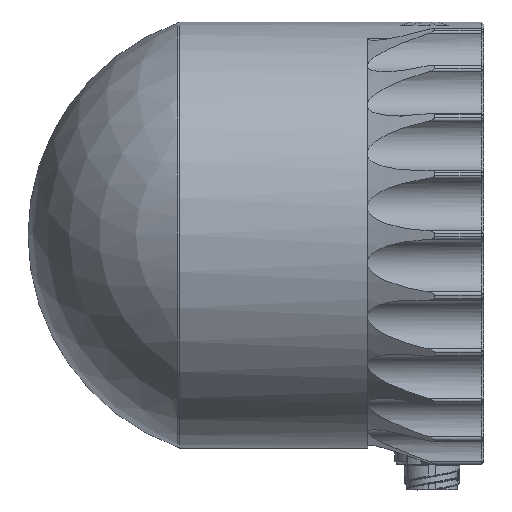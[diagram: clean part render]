
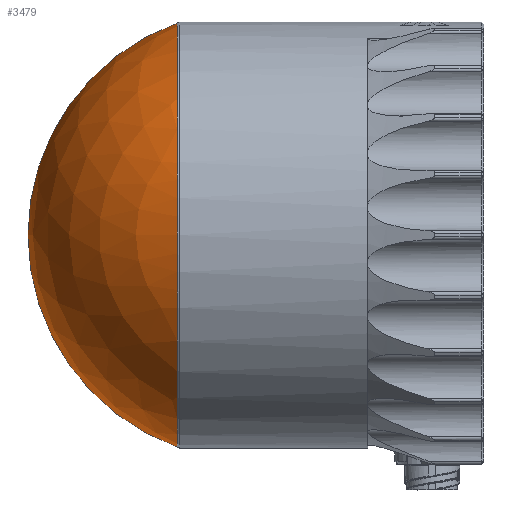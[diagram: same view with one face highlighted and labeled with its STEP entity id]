
A CAD part, left-side view. The second image highlights one B-rep face of the part: STEP entity #3479.
In plain terms, the highlighted spherical face has radius 41.2 mm.
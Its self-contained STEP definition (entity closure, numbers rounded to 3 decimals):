
#1589 = AXIS2_PLACEMENT_3D ( 'NONE', #22937, #10468, #59908 ) ;
#3479 = ADVANCED_FACE ( 'NONE', ( #34811 ), #36775, .T. ) ;
#3748 = VERTEX_POINT ( 'NONE', #27011 ) ;
#4002 = CIRCLE ( 'NONE', #27110, 41.2 ) ;
#8672 = DIRECTION ( 'NONE',  ( 0., -1., 0. ) ) ;
#10468 = DIRECTION ( 'NONE',  ( -1., 0., 0. ) ) ;
#11356 = CARTESIAN_POINT ( 'NONE',  ( 0., 42.267, 0. ) ) ;
#15427 = AXIS2_PLACEMENT_3D ( 'NONE', #61617, #24694, #49231 ) ;
#16374 = CIRCLE ( 'NONE', #17602, 38.79 ) ;
#17602 = AXIS2_PLACEMENT_3D ( 'NONE', #52930, #8672, #39694 ) ;
#22937 = CARTESIAN_POINT ( 'NONE',  ( 0., 42.267, 0. ) ) ;
#24694 = DIRECTION ( 'NONE',  ( 1., 0., 0. ) ) ;
#27011 = CARTESIAN_POINT ( 'NONE',  ( 0., 83.467, 0. ) ) ;
#27110 = AXIS2_PLACEMENT_3D ( 'NONE', #11356, #47990, #58824 ) ;
#27625 = EDGE_CURVE ( 'NONE', #71710, #40662, #16374, .T. ) ;
#27787 = CARTESIAN_POINT ( 'NONE',  ( 0., 56.152, 38.79 ) ) ;
#33038 = EDGE_CURVE ( 'NONE', #3748, #71710, #4002, .T. ) ;
#34811 = FACE_OUTER_BOUND ( 'NONE', #60120, .T. ) ;
#36775 = SPHERICAL_SURFACE ( 'NONE', #15427, 41.2 ) ;
#39694 = DIRECTION ( 'NONE',  ( 0., 0., -1. ) ) ;
#40662 = VERTEX_POINT ( 'NONE', #53848 ) ;
#47489 = ORIENTED_EDGE ( 'NONE', *, *, #33038, .F. ) ;
#47990 = DIRECTION ( 'NONE',  ( 1., 0., 0. ) ) ;
#49231 = DIRECTION ( 'NONE',  ( 0., 0., -1. ) ) ;
#52930 = CARTESIAN_POINT ( 'NONE',  ( 0., 56.152, 0. ) ) ;
#53848 = CARTESIAN_POINT ( 'NONE',  ( 0., 56.152, -38.79 ) ) ;
#54273 = CIRCLE ( 'NONE', #1589, 41.2 ) ;
#58824 = DIRECTION ( 'NONE',  ( 0., 0., -1. ) ) ;
#59908 = DIRECTION ( 'NONE',  ( 0., 0., 1. ) ) ;
#60120 = EDGE_LOOP ( 'NONE', ( #47489, #61424, #68338 ) ) ;
#61424 = ORIENTED_EDGE ( 'NONE', *, *, #77277, .T. ) ;
#61617 = CARTESIAN_POINT ( 'NONE',  ( 0., 42.267, 0. ) ) ;
#68338 = ORIENTED_EDGE ( 'NONE', *, *, #27625, .F. ) ;
#71710 = VERTEX_POINT ( 'NONE', #27787 ) ;
#77277 = EDGE_CURVE ( 'NONE', #3748, #40662, #54273, .T. ) ;
